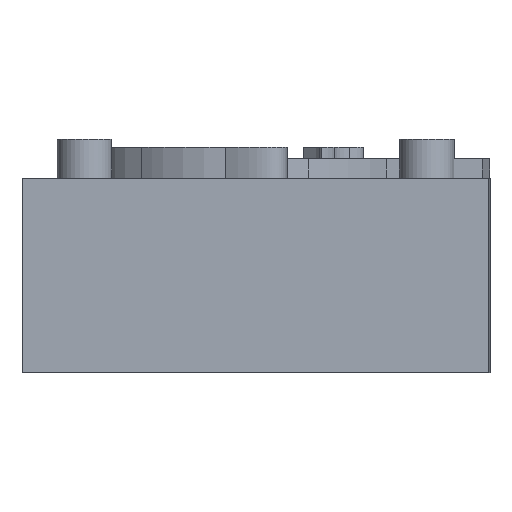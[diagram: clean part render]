
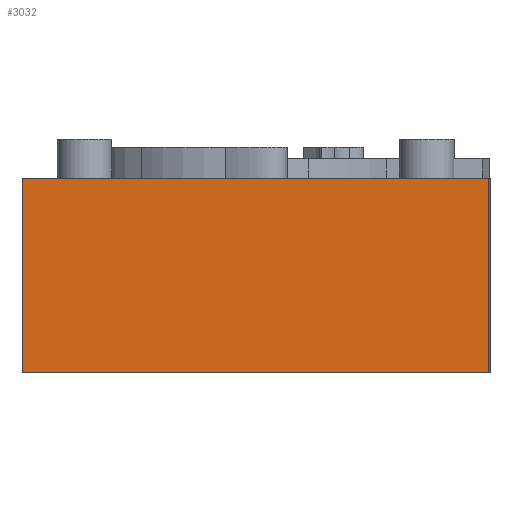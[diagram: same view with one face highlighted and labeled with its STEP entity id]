
A CAD part, left-side view. The second image highlights one B-rep face of the part: STEP entity #3032.
In plain terms, the highlighted planar face has unit normal (-1, 0, 0).
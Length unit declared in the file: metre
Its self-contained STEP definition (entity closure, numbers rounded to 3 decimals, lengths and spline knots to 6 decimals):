
#347=LINE('',#5075,#611);
#348=LINE('',#5078,#612);
#349=LINE('',#5080,#613);
#350=LINE('',#5082,#614);
#611=VECTOR('',#3840,1.);
#612=VECTOR('',#3841,1.);
#613=VECTOR('',#3842,1.);
#614=VECTOR('',#3843,1.);
#899=PLANE('',#3423);
#1434=ORIENTED_EDGE('',*,*,#2015,.F.);
#1435=ORIENTED_EDGE('',*,*,#2016,.F.);
#1436=ORIENTED_EDGE('',*,*,#2017,.T.);
#1437=ORIENTED_EDGE('',*,*,#2018,.T.);
#2015=EDGE_CURVE('',#2348,#2349,#347,.T.);
#2016=EDGE_CURVE('',#2350,#2348,#348,.T.);
#2017=EDGE_CURVE('',#2350,#2351,#349,.T.);
#2018=EDGE_CURVE('',#2351,#2349,#350,.T.);
#2348=VERTEX_POINT('',#5076);
#2349=VERTEX_POINT('',#5077);
#2350=VERTEX_POINT('',#5079);
#2351=VERTEX_POINT('',#5081);
#2609=EDGE_LOOP('',(#1434,#1435,#1436,#1437));
#2819=FACE_BOUND('',#2609,.T.);
#3032=ADVANCED_FACE('',(#2819),#899,.T.);
#3423=AXIS2_PLACEMENT_3D('',#5074,#3838,#3839);
#3838=DIRECTION('',(-1.,0.,0.));
#3839=DIRECTION('',(0.,-1.,0.));
#3840=DIRECTION('',(0.,-1.,0.));
#3841=DIRECTION('',(0.,0.,1.));
#3842=DIRECTION('',(0.,-1.,0.));
#3843=DIRECTION('',(0.,0.,1.));
#5074=CARTESIAN_POINT('',(-0.104175,-0.057491,-0.025));
#5075=CARTESIAN_POINT('',(-0.104175,-0.057491,0.));
#5076=CARTESIAN_POINT('',(-0.104175,-0.027491,0.));
#5077=CARTESIAN_POINT('',(-0.104175,-0.087491,0.));
#5078=CARTESIAN_POINT('',(-0.104175,-0.027491,-0.025));
#5079=CARTESIAN_POINT('',(-0.104175,-0.027491,-0.025));
#5080=CARTESIAN_POINT('',(-0.104175,-0.057491,-0.025));
#5081=CARTESIAN_POINT('',(-0.104175,-0.087491,-0.025));
#5082=CARTESIAN_POINT('',(-0.104175,-0.087491,-0.025));
